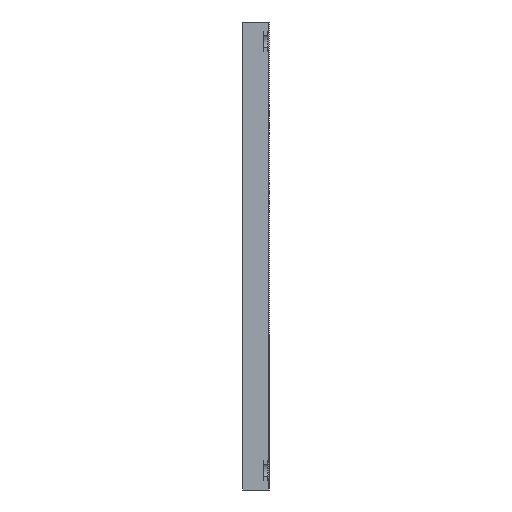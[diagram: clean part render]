
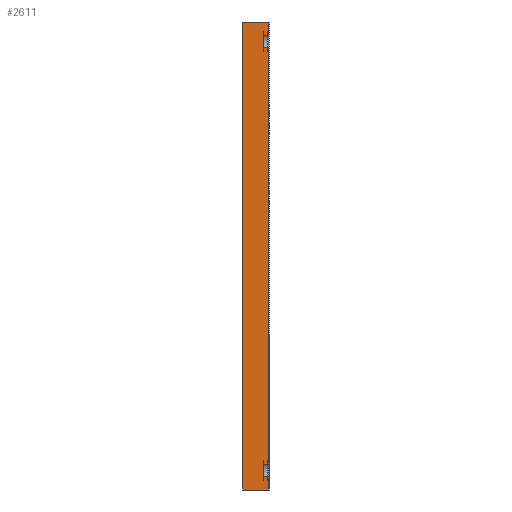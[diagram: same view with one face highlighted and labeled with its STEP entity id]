
A CAD part, left-side view. The second image highlights one B-rep face of the part: STEP entity #2611.
In plain terms, the highlighted planar face has unit normal (-1, 0, 0).
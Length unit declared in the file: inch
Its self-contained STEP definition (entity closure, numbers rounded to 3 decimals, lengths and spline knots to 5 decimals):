
#15 = CARTESIAN_POINT ( 'NONE',  ( -10.89205, 0.105, -4.0142 ) ) ;
#71 = EDGE_CURVE ( 'NONE', #3904, #3329, #378, .T. ) ;
#76 = EDGE_CURVE ( 'NONE', #1398, #1213, #3691, .T. ) ;
#78 = B_SPLINE_CURVE_WITH_KNOTS ( 'NONE', 3,
 ( #2579, #2560, #2698, #2473 ),
 .UNSPECIFIED., .F., .F.,
 ( 4, 4 ),
 ( 0.01002, 0.01112 ),
 .UNSPECIFIED. ) ;
#136 = DIRECTION ( 'NONE',  ( 0., 1., 0. ) ) ;
#154 = CARTESIAN_POINT ( 'NONE',  ( -10.89205, 0., -3.5267 ) ) ;
#165 = PLANE ( 'NONE',  #3785 ) ;
#241 = LINE ( 'NONE', #2569, #3439 ) ;
#267 = ORIENTED_EDGE ( 'NONE', *, *, #4657, .T. ) ;
#303 = LINE ( 'NONE', #3977, #1298 ) ;
#375 = CARTESIAN_POINT ( 'NONE',  ( -10.89205, 0., 4.46028 ) ) ;
#378 = LINE ( 'NONE', #154, #1511 ) ;
#400 = ORIENTED_EDGE ( 'NONE', *, *, #4833, .T. ) ;
#434 = CARTESIAN_POINT ( 'NONE',  ( -10.89205, 0.02098, 4.7233 ) ) ;
#494 = VECTOR ( 'NONE', #136, 39.37008 ) ;
#608 = CARTESIAN_POINT ( 'NONE',  ( -10.89205, 0., 4.76132 ) ) ;
#629 = VECTOR ( 'NONE', #1344, 39.37008 ) ;
#646 = ORIENTED_EDGE ( 'NONE', *, *, #3145, .T. ) ;
#680 = CARTESIAN_POINT ( 'NONE',  ( -10.89205, 0.02098, -3.5267 ) ) ;
#718 = EDGE_CURVE ( 'NONE', #1123, #765, #2522, .T. ) ;
#765 = VERTEX_POINT ( 'NONE', #1275 ) ;
#909 = EDGE_CURVE ( 'NONE', #4316, #1712, #1757, .T. ) ;
#1076 = EDGE_CURVE ( 'NONE', #2120, #1398, #2156, .T. ) ;
#1123 = VERTEX_POINT ( 'NONE', #1843 ) ;
#1204 = VECTOR ( 'NONE', #2174, 39.37008 ) ;
#1213 = VERTEX_POINT ( 'NONE', #1957 ) ;
#1247 = CARTESIAN_POINT ( 'NONE',  ( -10.89205, 0.01444, -3.51372 ) ) ;
#1275 = CARTESIAN_POINT ( 'NONE',  ( -10.89205, 0.5, 4.9858 ) ) ;
#1288 = CARTESIAN_POINT ( 'NONE',  ( -10.89205, 0.01444, 4.73628 ) ) ;
#1298 = VECTOR ( 'NONE', #2766, 39.37008 ) ;
#1344 = DIRECTION ( 'NONE',  ( 0., 1., 0. ) ) ;
#1389 = CARTESIAN_POINT ( 'NONE',  ( -10.89205, 0.00737, -3.50109 ) ) ;
#1398 = VERTEX_POINT ( 'NONE', #2478 ) ;
#1428 = VECTOR ( 'NONE', #2499, 39.37008 ) ;
#1431 = VECTOR ( 'NONE', #4665, 39.37008 ) ;
#1476 = CARTESIAN_POINT ( 'NONE',  ( -10.89205, 0., -4.0142 ) ) ;
#1507 = CARTESIAN_POINT ( 'NONE',  ( -10.89205, 0., -4.0142 ) ) ;
#1511 = VECTOR ( 'NONE', #4854, 39.37008 ) ;
#1584 = CARTESIAN_POINT ( 'NONE',  ( -10.89205, 0., -3.7517 ) ) ;
#1623 = VERTEX_POINT ( 'NONE', #3780 ) ;
#1644 = B_SPLINE_CURVE_WITH_KNOTS ( 'NONE', 3,
 ( #5220, #1247, #1389, #5181 ),
 .UNSPECIFIED., .F., .F.,
 ( 4, 4 ),
 ( 0.01712, 0.01822 ),
 .UNSPECIFIED. ) ;
#1680 = VECTOR ( 'NONE', #5159, 39.37008 ) ;
#1712 = VERTEX_POINT ( 'NONE', #2176 ) ;
#1720 = ORIENTED_EDGE ( 'NONE', *, *, #71, .T. ) ;
#1757 = LINE ( 'NONE', #1507, #3804 ) ;
#1843 = CARTESIAN_POINT ( 'NONE',  ( -10.89205, 0.5, -4.0142 ) ) ;
#1863 = DIRECTION ( 'NONE',  ( 0., 0., 1. ) ) ;
#1925 = DIRECTION ( 'NONE',  ( 0., 0., -1. ) ) ;
#1957 = CARTESIAN_POINT ( 'NONE',  ( -10.89205, 0.105, 4.7233 ) ) ;
#1994 = ORIENTED_EDGE ( 'NONE', *, *, #2900, .F. ) ;
#2034 = B_SPLINE_CURVE_WITH_KNOTS ( 'NONE', 3,
 ( #3319, #2128, #2750, #3945 ),
 .UNSPECIFIED., .F., .F.,
 ( 4, 4 ),
 ( 0.01002, 0.01112 ),
 .UNSPECIFIED. ) ;
#2038 = ORIENTED_EDGE ( 'NONE', *, *, #2950, .T. ) ;
#2120 = VERTEX_POINT ( 'NONE', #3092 ) ;
#2128 = CARTESIAN_POINT ( 'NONE',  ( -10.89205, 0.00738, 4.4727 ) ) ;
#2143 = CARTESIAN_POINT ( 'NONE',  ( -10.89205, 0.105, -3.5267 ) ) ;
#2156 = LINE ( 'NONE', #3324, #629 ) ;
#2174 = DIRECTION ( 'NONE',  ( 0., 0., 1. ) ) ;
#2176 = CARTESIAN_POINT ( 'NONE',  ( -10.89205, 0., 4.9858 ) ) ;
#2195 = FACE_OUTER_BOUND ( 'NONE', #4096, .T. ) ;
#2225 = EDGE_CURVE ( 'NONE', #5035, #2631, #78, .T. ) ;
#2325 = DIRECTION ( 'NONE',  ( 0., 0., 1. ) ) ;
#2345 = CARTESIAN_POINT ( 'NONE',  ( -10.89205, 0.5, -4.0142 ) ) ;
#2412 = CARTESIAN_POINT ( 'NONE',  ( -10.89205, 0.00737, 4.74891 ) ) ;
#2473 = CARTESIAN_POINT ( 'NONE',  ( -10.89205, 0.02098, -3.7517 ) ) ;
#2478 = CARTESIAN_POINT ( 'NONE',  ( -10.89205, 0.105, 4.4983 ) ) ;
#2499 = DIRECTION ( 'NONE',  ( 0., 0., 1. ) ) ;
#2507 = CARTESIAN_POINT ( 'NONE',  ( -10.89205, 0., -3.78972 ) ) ;
#2522 = LINE ( 'NONE', #4680, #1428 ) ;
#2527 = LINE ( 'NONE', #3754, #1431 ) ;
#2560 = CARTESIAN_POINT ( 'NONE',  ( -10.89205, 0.00738, -3.7773 ) ) ;
#2569 = CARTESIAN_POINT ( 'NONE',  ( -10.89205, 0., 4.7233 ) ) ;
#2579 = CARTESIAN_POINT ( 'NONE',  ( -10.89205, 0., -3.78972 ) ) ;
#2611 = ADVANCED_FACE ( 'NONE', ( #2195 ), #165, .F. ) ;
#2631 = VERTEX_POINT ( 'NONE', #4363 ) ;
#2698 = CARTESIAN_POINT ( 'NONE',  ( -10.89205, 0.01445, -3.76467 ) ) ;
#2701 = EDGE_CURVE ( 'NONE', #3927, #5035, #2891, .T. ) ;
#2732 = LINE ( 'NONE', #1584, #494 ) ;
#2750 = CARTESIAN_POINT ( 'NONE',  ( -10.89205, 0.01445, 4.48533 ) ) ;
#2766 = DIRECTION ( 'NONE',  ( 0., 0., 1. ) ) ;
#2795 = CARTESIAN_POINT ( 'NONE',  ( -10.89205, 0.105, -4.0142 ) ) ;
#2850 = CARTESIAN_POINT ( 'NONE',  ( -10.89205, 0., 4.76132 ) ) ;
#2891 = LINE ( 'NONE', #1476, #1680 ) ;
#2900 = EDGE_CURVE ( 'NONE', #765, #1712, #2527, .T. ) ;
#2950 = EDGE_CURVE ( 'NONE', #3515, #3845, #303, .T. ) ;
#2999 = ORIENTED_EDGE ( 'NONE', *, *, #3384, .T. ) ;
#3057 = ORIENTED_EDGE ( 'NONE', *, *, #3447, .T. ) ;
#3092 = CARTESIAN_POINT ( 'NONE',  ( -10.89205, 0.02098, 4.4983 ) ) ;
#3145 = EDGE_CURVE ( 'NONE', #3329, #3515, #1644, .T. ) ;
#3246 = VERTEX_POINT ( 'NONE', #4111 ) ;
#3252 = ORIENTED_EDGE ( 'NONE', *, *, #3955, .T. ) ;
#3319 = CARTESIAN_POINT ( 'NONE',  ( -10.89205, 0., 4.46028 ) ) ;
#3324 = CARTESIAN_POINT ( 'NONE',  ( -10.89205, 0., 4.4983 ) ) ;
#3329 = VERTEX_POINT ( 'NONE', #680 ) ;
#3330 = CARTESIAN_POINT ( 'NONE',  ( -10.89205, 0., -4.0142 ) ) ;
#3384 = EDGE_CURVE ( 'NONE', #2631, #1623, #2732, .T. ) ;
#3435 = DIRECTION ( 'NONE',  ( 0., -1., 0. ) ) ;
#3439 = VECTOR ( 'NONE', #3435, 39.37008 ) ;
#3447 = EDGE_CURVE ( 'NONE', #1213, #3246, #241, .T. ) ;
#3515 = VERTEX_POINT ( 'NONE', #4007 ) ;
#3561 = VECTOR ( 'NONE', #2325, 39.37008 ) ;
#3618 = VECTOR ( 'NONE', #5055, 39.37008 ) ;
#3628 = EDGE_CURVE ( 'NONE', #1123, #3927, #4677, .T. ) ;
#3670 = LINE ( 'NONE', #15, #1204 ) ;
#3691 = LINE ( 'NONE', #2795, #3561 ) ;
#3754 = CARTESIAN_POINT ( 'NONE',  ( -10.89205, 0.5, 4.9858 ) ) ;
#3780 = CARTESIAN_POINT ( 'NONE',  ( -10.89205, 0.105, -3.7517 ) ) ;
#3785 = AXIS2_PLACEMENT_3D ( 'NONE', #4635, #3988, #1925 ) ;
#3804 = VECTOR ( 'NONE', #1863, 39.37008 ) ;
#3845 = VERTEX_POINT ( 'NONE', #375 ) ;
#3904 = VERTEX_POINT ( 'NONE', #2143 ) ;
#3927 = VERTEX_POINT ( 'NONE', #3330 ) ;
#3945 = CARTESIAN_POINT ( 'NONE',  ( -10.89205, 0.02098, 4.4983 ) ) ;
#3955 = EDGE_CURVE ( 'NONE', #3246, #4316, #4890, .T. ) ;
#3977 = CARTESIAN_POINT ( 'NONE',  ( -10.89205, 0., -4.0142 ) ) ;
#3988 = DIRECTION ( 'NONE',  ( 1., 0., 0. ) ) ;
#4007 = CARTESIAN_POINT ( 'NONE',  ( -10.89205, 0., -3.48868 ) ) ;
#4015 = ORIENTED_EDGE ( 'NONE', *, *, #76, .T. ) ;
#4096 = EDGE_LOOP ( 'NONE', ( #4828, #4401, #2999, #400, #1720, #646, #2038, #267, #5018, #4015, #3057, #3252, #4531, #1994, #4518, #5202 ) ) ;
#4111 = CARTESIAN_POINT ( 'NONE',  ( -10.89205, 0.02098, 4.7233 ) ) ;
#4316 = VERTEX_POINT ( 'NONE', #608 ) ;
#4363 = CARTESIAN_POINT ( 'NONE',  ( -10.89205, 0.02098, -3.7517 ) ) ;
#4401 = ORIENTED_EDGE ( 'NONE', *, *, #2225, .T. ) ;
#4518 = ORIENTED_EDGE ( 'NONE', *, *, #718, .F. ) ;
#4531 = ORIENTED_EDGE ( 'NONE', *, *, #909, .T. ) ;
#4635 = CARTESIAN_POINT ( 'NONE',  ( -10.89205, 0.5, -4.0142 ) ) ;
#4657 = EDGE_CURVE ( 'NONE', #3845, #2120, #2034, .T. ) ;
#4665 = DIRECTION ( 'NONE',  ( 0., -1., 0. ) ) ;
#4677 = LINE ( 'NONE', #2345, #3618 ) ;
#4680 = CARTESIAN_POINT ( 'NONE',  ( -10.89205, 0.5, -4.0142 ) ) ;
#4828 = ORIENTED_EDGE ( 'NONE', *, *, #2701, .T. ) ;
#4833 = EDGE_CURVE ( 'NONE', #1623, #3904, #3670, .T. ) ;
#4854 = DIRECTION ( 'NONE',  ( 0., -1., 0. ) ) ;
#4890 = B_SPLINE_CURVE_WITH_KNOTS ( 'NONE', 3,
 ( #434, #1288, #2412, #2850 ),
 .UNSPECIFIED., .F., .F.,
 ( 4, 4 ),
 ( 0.01712, 0.01822 ),
 .UNSPECIFIED. ) ;
#5018 = ORIENTED_EDGE ( 'NONE', *, *, #1076, .T. ) ;
#5035 = VERTEX_POINT ( 'NONE', #2507 ) ;
#5055 = DIRECTION ( 'NONE',  ( 0., -1., 0. ) ) ;
#5159 = DIRECTION ( 'NONE',  ( 0., 0., 1. ) ) ;
#5181 = CARTESIAN_POINT ( 'NONE',  ( -10.89205, 0., -3.48868 ) ) ;
#5202 = ORIENTED_EDGE ( 'NONE', *, *, #3628, .T. ) ;
#5220 = CARTESIAN_POINT ( 'NONE',  ( -10.89205, 0.02098, -3.5267 ) ) ;
